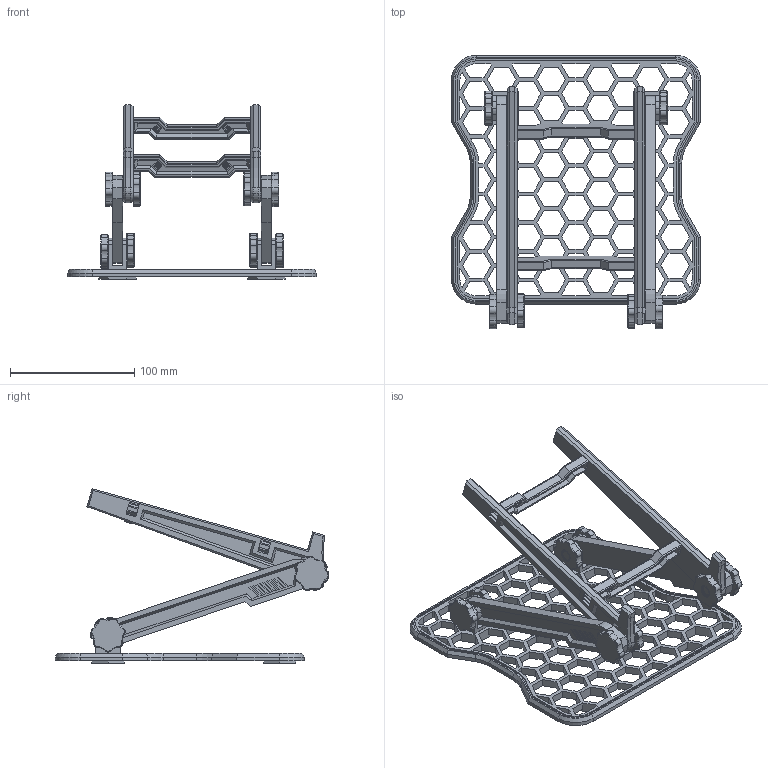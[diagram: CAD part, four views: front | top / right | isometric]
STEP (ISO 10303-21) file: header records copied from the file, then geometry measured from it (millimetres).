
FILE_DESCRIPTION (( 'STEP AP214' ), '1' );
FILE_NAME ('Assembly.STEP', '2022-04-04T19:49:57', ( '' ), ( '' ), 'SwSTEP 2.0', 'SolidWorks 2021', '' );
FILE_SCHEMA (( 'AUTOMOTIVE_DESIGN' ));
Length unit declared in the file: millimetre
Products named in the file (10): Laptopaufnahme; Schraube; Querträger; Mutter; Arm; Boden; L-Stabilisator; Assembly; L-Stabilisator -mir; arm -mir
Assembly tree (16 placements, depth 3):
  Assembly
    Arm
    Boden
    Schraube  x4
    Mutter  x4
    arm -mir
    Laptopaufnahme
      L-Stabilisator
      L-Stabilisator -mir
      Querträger  x2
Bounding box: 200 x 219.87 x 140.26 mm (x, y, z)
Volume: 242690 mm3; surface area: 149538.4 mm2
Topology: 17 solids, 17 shells, 3796 faces, 10862 edges, 5974 vertices
Faces by surface type: plane 1192, sphere 1152, cylinder 1000, bspline 288, cone 164
Entity records: 100714 total; most frequent: CARTESIAN_POINT 22902, DIRECTION 17032, ORIENTED_EDGE 15498, EDGE_CURVE 7749, AXIS2_PLACEMENT_3D 6449, VERTEX_POINT 4984, VECTOR 4134, LINE 4134
